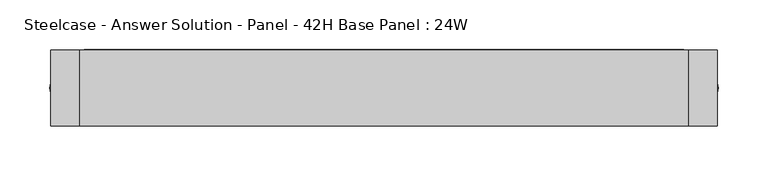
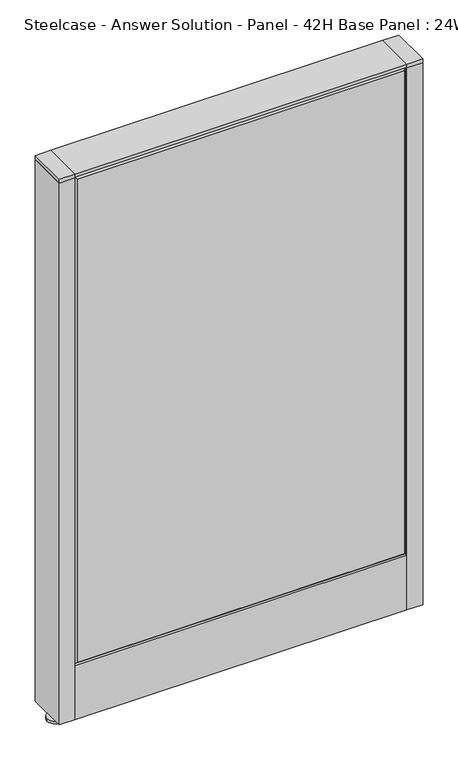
"""IFC4 building model written with IfcOpenShell, lengths in millimetres: furniture geometry, Steelcase - Answer Solution - Panel - 42H Base Panel : 24W."""

from ifc_helpers import new_model, si_unit, point, frame, frame_2d, origin, place, context, project, spatial, polyline, circle_curve, trimmed, segment, composite_curve, outline, extrude, faceted_brep, source, transform, mapped, element, save


def steelcase_answer_solution_panel_42h_base_panel_24w_5740960c(model_context):
    return source(origin(), model_context, "Body", "SolidModel", [
        extrude(outline(composite_curve([segment(trimmed(circle_curve(frame_2d((319.024, 0.0039657)), 5.08), [point((324.104, 0.0039657))], [point((313.944, 0.0039657))], False, "CARTESIAN"), True, "CONTINUOUS"), segment(trimmed(circle_curve(frame_2d((319.024, 0.0039657)), 5.08), [point((313.944, 0.0039657))], [point((324.104, 0.0039657))], False, "CARTESIAN"), True, "CONTINUOUS")], self_intersect=False)), frame((0.0, 0.0, 5.0799671), z_axis=(0.0, 0.0, 1.0), x_axis=(1.0, 0.0, 0.0)), (0.0, 0.0, 1.0), 10.414),
        extrude(outline(composite_curve([segment(trimmed(circle_curve(frame_2d((319.024, 0.0039657)), 15.24), [point((334.264, 0.0039657))], [point((303.784, 0.0039657))], False, "CARTESIAN"), True, "CONTINUOUS"), segment(trimmed(circle_curve(frame_2d((319.024, 0.0039657)), 15.24), [point((303.784, 0.0039657))], [point((334.264, 0.0039657))], False, "CARTESIAN"), True, "CONTINUOUS")], self_intersect=False)), frame((0.0, 0.0, -3.29e-05), z_axis=(0.0, 0.0, 1.0), x_axis=(1.0, 0.0, 0.0)), (0.0, 0.0, 1.0), 5.08),
        extrude(outline(polyline([(333.375, 38.1039851), (333.375, -38.0960149), (304.8, -38.0960149), (304.8, 38.1039851), (333.375, 38.1039851)])), frame((0.0, 0.0, 1065.8348), z_axis=(0.0, 0.0, 1.0), x_axis=(1.0, 0.0, 0.0)), (0.0, 0.0, 1.0), 7.3151671),
        extrude(outline(polyline([(333.375, 38.1039851), (333.375, -38.0960149), (304.8, -38.0960149), (304.8, 38.1039851), (333.375, 38.1039851)])), frame((0.0, 0.0, 15.4939671), z_axis=(0.0, 0.0, 1.0), x_axis=(1.0, 0.0, 0.0)), (0.0, 0.0, 1.0), 1050.3408329),
        extrude(outline(composite_curve([segment(trimmed(circle_curve(frame_2d((-319.024, 0.0039657)), 5.08), [point((-324.104, 0.0039657))], [point((-313.944, 0.0039657))], False, "CARTESIAN"), True, "CONTINUOUS"), segment(trimmed(circle_curve(frame_2d((-319.024, 0.0039657)), 5.08), [point((-313.944, 0.0039657))], [point((-324.104, 0.0039657))], False, "CARTESIAN"), True, "CONTINUOUS")], self_intersect=False)), frame((0.0, 0.0, 5.0799671), z_axis=(0.0, 0.0, 1.0), x_axis=(1.0, 0.0, 0.0)), (0.0, 0.0, 1.0), 10.414),
        extrude(outline(composite_curve([segment(trimmed(circle_curve(frame_2d((-319.024, 0.0039657)), 15.24), [point((-334.264, 0.0039657))], [point((-303.784, 0.0039657))], False, "CARTESIAN"), True, "CONTINUOUS"), segment(trimmed(circle_curve(frame_2d((-319.024, 0.0039657)), 15.24), [point((-303.784, 0.0039657))], [point((-334.264, 0.0039657))], False, "CARTESIAN"), True, "CONTINUOUS")], self_intersect=False)), frame((0.0, 0.0, -3.29e-05), z_axis=(0.0, 0.0, 1.0), x_axis=(1.0, 0.0, 0.0)), (0.0, 0.0, 1.0), 5.08),
        extrude(outline(polyline([(-333.375, 38.1039851), (-304.8, 38.1039851), (-304.8, -38.0960149), (-333.375, -38.0960149), (-333.375, 38.1039851)])), frame((0.0, 0.0, 1065.8348), z_axis=(0.0, 0.0, 1.0), x_axis=(1.0, 0.0, 0.0)), (0.0, 0.0, 1.0), 7.3151671),
        extrude(outline(polyline([(-333.375, 38.1039851), (-304.8, 38.1039851), (-304.8, -38.0960149), (-333.375, -38.0960149), (-333.375, 38.1039851)])), frame((0.0, 0.0, 15.4939671), z_axis=(0.0, 0.0, 1.0), x_axis=(1.0, 0.0, 0.0)), (0.0, 0.0, 1.0), 1050.3408329),
        faceted_brep([(-299.974, 38.1635011, 1061.974), (299.974, 38.1635011, 1061.974), (299.974, 38.1635011, 125.476), (-299.974, 38.1635011, 125.476), (-304.8, 33.3375011, 1066.8), (-304.8, 33.3375011, 120.65), (304.8, 33.3375011, 120.65), (304.8, 33.3375011, 1066.8)], [[[0, 1, 2, 3]], [[4, 5, 6, 7]], [[4, 7, 1, 0]], [[7, 6, 2, 1]], [[6, 5, 3, 2]], [[5, 4, 0, 3]]]),
        faceted_brep([(299.974, -38.1635011, 1061.974), (-299.974, -38.1635011, 1061.974), (-299.974, -38.1635011, 125.476), (299.974, -38.1635011, 125.476), (304.8, -33.3375011, 1066.8), (304.8, -33.3375011, 120.65), (-304.8, -33.3375011, 120.65), (-304.8, -33.3375011, 1066.8)], [[[0, 1, 2, 3]], [[4, 5, 6, 7]], [[4, 7, 1, 0]], [[7, 6, 2, 1]], [[6, 5, 3, 2]], [[5, 4, 0, 3]]]),
        extrude(outline(polyline([(304.8, 38.1000194), (304.8, -38.1000194), (-304.8, -38.1000194), (-304.8, 38.1000194), (304.8, 38.1000194)])), frame((0.0, 0.0, 1066.8), z_axis=(0.0, 0.0, 1.0), x_axis=(1.0, 0.0, 0.0)), (0.0, 0.0, 1.0), 6.35),
        extrude(outline(polyline([(25.4000011, 119.8575157), (25.4000011, 120.65), (38.1000194, 120.65), (38.1000194, 15.494), (37.3075215, 15.494), (37.3075215, 119.8575157), (25.4000011, 119.8575157)])), frame((-304.8, 0.0, 0.0), z_axis=(1.0, 0.0, 0.0), x_axis=(0.0, 1.0, 0.0)), (0.0, 0.0, 1.0), 609.6),
        extrude(outline(polyline([(-25.4000011, 119.8575157), (-37.3075215, 119.8575157), (-37.3075215, 15.494), (-38.1000194, 15.494), (-38.1000194, 120.65), (-25.4000011, 120.65), (-25.4000011, 119.8575157)])), frame((-304.8, 0.0, 0.0), z_axis=(1.0, 0.0, 0.0), x_axis=(0.0, 1.0, 0.0)), (0.0, 0.0, 1.0), 609.6),
    ])


if __name__ == "__main__":
    model = new_model("IFC4")
    model_context = context("Model", 3, world=origin())
    ifc_project = project(units=[si_unit("LENGTHUNIT", "METRE", prefix="MILLI")], contexts=[model_context])
    site = spatial("IfcSite", under=ifc_project)
    building = spatial("IfcBuilding", under=site)
    placement = place(None, origin())
    steelcase_answer_solution_panel_42h_base_panel_24w_shape = steelcase_answer_solution_panel_42h_base_panel_24w_5740960c(model_context)
    element("IfcFurniture", 1, ObjectType="Steelcase - Answer Solution - Panel - 42H Base Panel : 24W", at=placement, inside=building, context=model_context, shape_type="MappedRepresentation", body=[
        mapped(steelcase_answer_solution_panel_42h_base_panel_24w_shape, transform((0.0, 0.0, 0.0), x_axis=(1.0, 0.0, 0.0), y_axis=(0.0, 1.0, 0.0), z_axis=(0.0, 0.0, 1.0))),
    ])
    save(model, "model.ifc")
